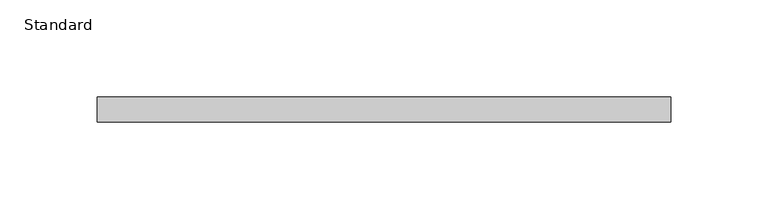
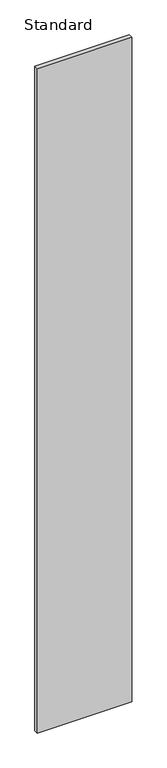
"""IFC4 building model written with IfcOpenShell, lengths in millimetres: furniture geometry, X_Partition-Compact Laminate-Duracube-Rectangular : Standard."""

from ifc_helpers import new_model, si_unit, frame, origin, place, context, project, spatial, polyline, outline, extrude, source, transform, mapped, element, save


def standard_c51d1a0a(model_context):
    return source(origin(), model_context, "Body", "SweptSolid", [
        extrude(outline(polyline([(192.2003264, 0.0), (192.2003264, -13.0), (-102.7996736, -13.0), (-102.7996736, 0.0), (192.2003264, 0.0)])), frame((0.0, 0.0, 200.0), z_axis=(0.0, 0.0, 1.0), x_axis=(1.0, 0.0, 0.0)), (0.0, 0.0, 1.0), 2198.0),
    ])


if __name__ == "__main__":
    model = new_model("IFC4")
    model_context = context("Model", 3, world=origin())
    ifc_project = project(units=[si_unit("LENGTHUNIT", "METRE", prefix="MILLI")], contexts=[model_context])
    site = spatial("IfcSite", under=ifc_project)
    building = spatial("IfcBuilding", under=site)
    placement = place(None, origin())
    standard_shape = standard_c51d1a0a(model_context)
    element("IfcFurniture", 1, ObjectType="X_Partition-Compact Laminate-Duracube-Rectangular : Standard", at=placement, inside=building, context=model_context, shape_type="MappedRepresentation", body=[
        mapped(standard_shape, transform((0.0, 0.0, 0.0), x_axis=(1.0, 0.0, 0.0), y_axis=(0.0, 1.0, 0.0), z_axis=(0.0, 0.0, 1.0))),
    ])
    save(model, "model.ifc")
